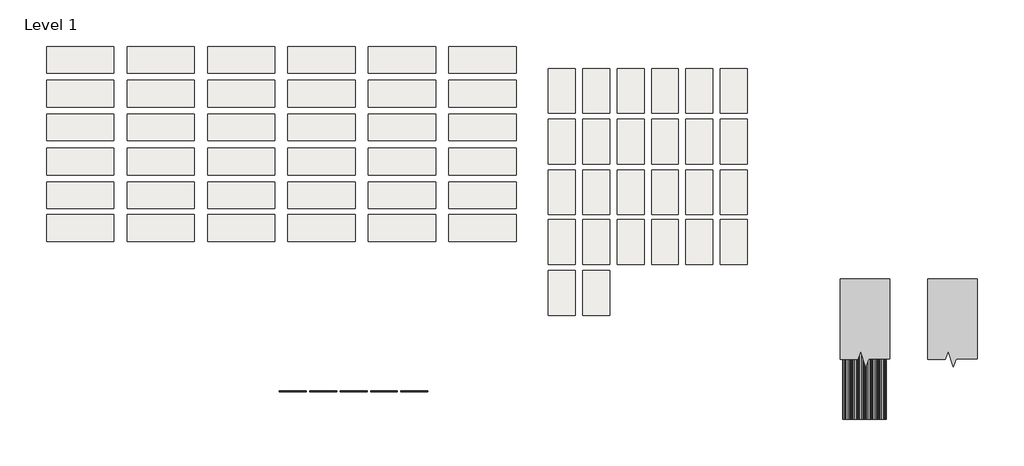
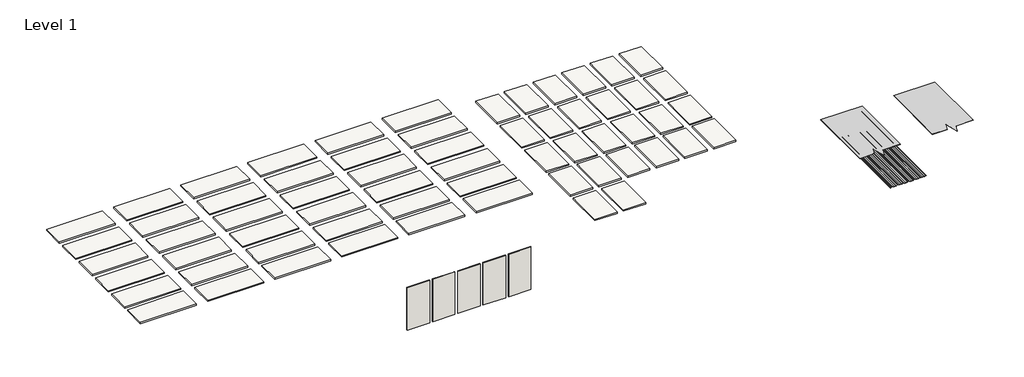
# One storey: 62 slabs, 5 walls, 3 proxies.
"""IFC4 building model written with IfcOpenShell, lengths in millimetres."""

from ifc_helpers import new_model, si_unit, frame, origin, origin_with_axes, place, context, project, spatial, polyline, outline, extrude, transform, mapped, element, save
from components import proxy_794bf6ff, section_mask1_section_mask_d04c1bcf

model = new_model("IFC4")

# Units and contexts
model_context = context("Model", 3, world=origin())
ifc_project = project(units=[si_unit("LENGTHUNIT", "METRE", prefix="MILLI")], contexts=[model_context])

# Site, building, storey
site = spatial("IfcSite", under=ifc_project)
building = spatial("IfcBuilding", under=site)
storey = spatial("IfcBuildingStorey", under=building, Name="Level 1", Elevation=0.0)

# Proxies
placement = place(None, origin())
proxy_shape = proxy_794bf6ff(model_context)
element("IfcBuildingElementProxy", 1, Name="Metal_Siding_Exposed-Fastener-Panel_Steelscape : 36\" Exposed Fastener Panel", ObjectType="Metal_Siding_Exposed-Fastener-Panel_Steelscape : 36\" Exposed Fastener Panel", at=placement, inside=storey, context=model_context, shape_type="MappedRepresentation", body=[
    mapped(proxy_shape, transform((8066.2424454, 2573.2522943, 0.0), x_axis=(1.0, 0.0, 0.0), y_axis=(0.0, 1.0, 0.0), z_axis=(0.0, 0.0, 1.0))),
])
section_mask1_section_mask_shape = section_mask1_section_mask_d04c1bcf(model_context)
element("IfcBuildingElementProxy", 2, Name="Section Mask1 : Section Mask", ObjectType="Section Mask1 : Section Mask", at=placement, inside=storey, context=model_context, shape_type="MappedRepresentation", body=[
    mapped(section_mask1_section_mask_shape, transform((1955.8, 0.0, 0.0), x_axis=(1.0, 0.0, 0.0), y_axis=(0.0, 1.0, 0.0), z_axis=(0.0, 0.0, 1.0))),
])
element("IfcBuildingElementProxy", 3, Name="Section Mask2 : Section Mask", ObjectType="Section Mask2 : Section Mask", at=placement, inside=storey, context=model_context, shape_type="MappedRepresentation", body=[
    mapped(section_mask1_section_mask_shape, transform((-31.75, 0.0, 0.0), x_axis=(1.0, 0.0, 0.0), y_axis=(0.0, 1.0, 0.0), z_axis=(0.0, 0.0, 1.0))),
])

# Slabs
element("IfcSlab", 4, ObjectType="Metal Siding - PAINTED - Steelscape", at=placement, inside=storey, context=model_context, shape_type="SweptSolid", body=[
    extrude(outline(polyline([(-9006.1610252, 7398.0362798), (-10530.1610252, 7398.0362798), (-10530.1610252, 8007.6362798), (-9006.1610252, 8007.6362798), (-9006.1610252, 7398.0362798)])), frame((0.0, 0.0, -38.1), z_axis=(0.0, 0.0, 1.0), x_axis=(1.0, 0.0, 0.0)), (0.0, 0.0, 1.0), 38.1),
])
element("IfcSlab", 5, ObjectType="Metal Siding - PAINTED - Steelscape", at=placement, inside=storey, context=model_context, shape_type="SweptSolid", body=[
    extrude(outline(polyline([(-9006.1610252, 6629.6862798), (-10530.1610252, 6629.6862798), (-10530.1610252, 7239.2862798), (-9006.1610252, 7239.2862798), (-9006.1610252, 6629.6862798)])), frame((0.0, 0.0, -38.1), z_axis=(0.0, 0.0, 1.0), x_axis=(1.0, 0.0, 0.0)), (0.0, 0.0, 1.0), 38.1),
])
element("IfcSlab", 6, ObjectType="Metal Siding - PAINTED - Steelscape", at=placement, inside=storey, context=model_context, shape_type="SweptSolid", body=[
    extrude(outline(polyline([(-9006.1610252, 5861.3362798), (-10530.1610252, 5861.3362798), (-10530.1610252, 6470.9362798), (-9006.1610252, 6470.9362798), (-9006.1610252, 5861.3362798)])), frame((0.0, 0.0, -38.1), z_axis=(0.0, 0.0, 1.0), x_axis=(1.0, 0.0, 0.0)), (0.0, 0.0, 1.0), 38.1),
])
element("IfcSlab", 7, ObjectType="Metal Siding - PAINTED - Steelscape", at=placement, inside=storey, context=model_context, shape_type="SweptSolid", body=[
    extrude(outline(polyline([(-9006.1610252, 5086.6362798), (-10530.1610252, 5086.6362798), (-10530.1610252, 5696.2362798), (-9006.1610252, 5696.2362798), (-9006.1610252, 5086.6362798)])), frame((0.0, 0.0, -38.1), z_axis=(0.0, 0.0, 1.0), x_axis=(1.0, 0.0, 0.0)), (0.0, 0.0, 1.0), 38.1),
])
element("IfcSlab", 8, ObjectType="Metal Siding - PAINTED - Steelscape", at=placement, inside=storey, context=model_context, shape_type="SweptSolid", body=[
    extrude(outline(polyline([(-9006.1610252, 4318.2862798), (-10530.1610252, 4318.2862798), (-10530.1610252, 4927.8862798), (-9006.1610252, 4927.8862798), (-9006.1610252, 4318.2862798)])), frame((0.0, 0.0, -38.1), z_axis=(0.0, 0.0, 1.0), x_axis=(1.0, 0.0, 0.0)), (0.0, 0.0, 1.0), 38.1),
])
element("IfcSlab", 9, ObjectType="Metal Siding - PAINTED - Steelscape", at=placement, inside=storey, context=model_context, shape_type="SweptSolid", body=[
    extrude(outline(polyline([(-9006.1610252, 3575.3362798), (-10530.1610252, 3575.3362798), (-10530.1610252, 4184.9362798), (-9006.1610252, 4184.9362798), (-9006.1610252, 3575.3362798)])), frame((0.0, 0.0, -38.1), z_axis=(0.0, 0.0, 1.0), x_axis=(1.0, 0.0, 0.0)), (0.0, 0.0, 1.0), 38.1),
])
element("IfcSlab", 10, ObjectType="Metal Siding - PAINTED - Steelscape", at=placement, inside=storey, context=model_context, shape_type="SweptSolid", body=[
    extrude(outline(polyline([(-7177.3610252, 7398.0362798), (-8701.3610252, 7398.0362798), (-8701.3610252, 8007.6362798), (-7177.3610252, 8007.6362798), (-7177.3610252, 7398.0362798)])), frame((0.0, 0.0, -38.1), z_axis=(0.0, 0.0, 1.0), x_axis=(1.0, 0.0, 0.0)), (0.0, 0.0, 1.0), 38.1),
])
element("IfcSlab", 11, ObjectType="Metal Siding - PAINTED - Steelscape", at=placement, inside=storey, context=model_context, shape_type="SweptSolid", body=[
    extrude(outline(polyline([(-7177.3610252, 6629.6862798), (-8701.3610252, 6629.6862798), (-8701.3610252, 7239.2862798), (-7177.3610252, 7239.2862798), (-7177.3610252, 6629.6862798)])), frame((0.0, 0.0, -38.1), z_axis=(0.0, 0.0, 1.0), x_axis=(1.0, 0.0, 0.0)), (0.0, 0.0, 1.0), 38.1),
])
element("IfcSlab", 12, ObjectType="Metal Siding - PAINTED - Steelscape", at=placement, inside=storey, context=model_context, shape_type="SweptSolid", body=[
    extrude(outline(polyline([(-7177.3610252, 5861.3362798), (-8701.3610252, 5861.3362798), (-8701.3610252, 6470.9362798), (-7177.3610252, 6470.9362798), (-7177.3610252, 5861.3362798)])), frame((0.0, 0.0, -38.1), z_axis=(0.0, 0.0, 1.0), x_axis=(1.0, 0.0, 0.0)), (0.0, 0.0, 1.0), 38.1),
])
element("IfcSlab", 13, ObjectType="Metal Siding - PAINTED - Steelscape", at=placement, inside=storey, context=model_context, shape_type="SweptSolid", body=[
    extrude(outline(polyline([(-7177.3610252, 5086.6362798), (-8701.3610252, 5086.6362798), (-8701.3610252, 5696.2362798), (-7177.3610252, 5696.2362798), (-7177.3610252, 5086.6362798)])), frame((0.0, 0.0, -38.1), z_axis=(0.0, 0.0, 1.0), x_axis=(1.0, 0.0, 0.0)), (0.0, 0.0, 1.0), 38.1),
])
element("IfcSlab", 14, ObjectType="Metal Siding - PAINTED - Steelscape", at=placement, inside=storey, context=model_context, shape_type="SweptSolid", body=[
    extrude(outline(polyline([(-7177.3610252, 4318.2862798), (-8701.3610252, 4318.2862798), (-8701.3610252, 4927.8862798), (-7177.3610252, 4927.8862798), (-7177.3610252, 4318.2862798)])), frame((0.0, 0.0, -38.1), z_axis=(0.0, 0.0, 1.0), x_axis=(1.0, 0.0, 0.0)), (0.0, 0.0, 1.0), 38.1),
])
element("IfcSlab", 15, ObjectType="Metal Siding - PAINTED - Steelscape", at=placement, inside=storey, context=model_context, shape_type="SweptSolid", body=[
    extrude(outline(polyline([(-7177.3610252, 3575.3362798), (-8701.3610252, 3575.3362798), (-8701.3610252, 4184.9362798), (-7177.3610252, 4184.9362798), (-7177.3610252, 3575.3362798)])), frame((0.0, 0.0, -38.1), z_axis=(0.0, 0.0, 1.0), x_axis=(1.0, 0.0, 0.0)), (0.0, 0.0, 1.0), 38.1),
])
element("IfcSlab", 16, ObjectType="Metal Siding - PAINTED - Steelscape", at=placement, inside=storey, context=model_context, shape_type="SweptSolid", body=[
    extrude(outline(polyline([(-5348.5610252, 7398.0362798), (-6872.5610252, 7398.0362798), (-6872.5610252, 8007.6362798), (-5348.5610252, 8007.6362798), (-5348.5610252, 7398.0362798)])), frame((0.0, 0.0, -38.1), z_axis=(0.0, 0.0, 1.0), x_axis=(1.0, 0.0, 0.0)), (0.0, 0.0, 1.0), 38.1),
])
element("IfcSlab", 17, ObjectType="Metal Siding - PAINTED - Steelscape", at=placement, inside=storey, context=model_context, shape_type="SweptSolid", body=[
    extrude(outline(polyline([(-5348.5610252, 6629.6862798), (-6872.5610252, 6629.6862798), (-6872.5610252, 7239.2862798), (-5348.5610252, 7239.2862798), (-5348.5610252, 6629.6862798)])), frame((0.0, 0.0, -38.1), z_axis=(0.0, 0.0, 1.0), x_axis=(1.0, 0.0, 0.0)), (0.0, 0.0, 1.0), 38.1),
])
element("IfcSlab", 18, ObjectType="Metal Siding - PAINTED - Steelscape", at=placement, inside=storey, context=model_context, shape_type="SweptSolid", body=[
    extrude(outline(polyline([(-5348.5610252, 5861.3362798), (-6872.5610252, 5861.3362798), (-6872.5610252, 6470.9362798), (-5348.5610252, 6470.9362798), (-5348.5610252, 5861.3362798)])), frame((0.0, 0.0, -38.1), z_axis=(0.0, 0.0, 1.0), x_axis=(1.0, 0.0, 0.0)), (0.0, 0.0, 1.0), 38.1),
])
element("IfcSlab", 19, ObjectType="Metal Siding - PAINTED - Steelscape", at=placement, inside=storey, context=model_context, shape_type="SweptSolid", body=[
    extrude(outline(polyline([(-5348.5610252, 5086.6362798), (-6872.5610252, 5086.6362798), (-6872.5610252, 5696.2362798), (-5348.5610252, 5696.2362798), (-5348.5610252, 5086.6362798)])), frame((0.0, 0.0, -38.1), z_axis=(0.0, 0.0, 1.0), x_axis=(1.0, 0.0, 0.0)), (0.0, 0.0, 1.0), 38.1),
])
element("IfcSlab", 20, ObjectType="Metal Siding - PAINTED - Steelscape", at=placement, inside=storey, context=model_context, shape_type="SweptSolid", body=[
    extrude(outline(polyline([(-5348.5610252, 4318.2862798), (-6872.5610252, 4318.2862798), (-6872.5610252, 4927.8862798), (-5348.5610252, 4927.8862798), (-5348.5610252, 4318.2862798)])), frame((0.0, 0.0, -38.1), z_axis=(0.0, 0.0, 1.0), x_axis=(1.0, 0.0, 0.0)), (0.0, 0.0, 1.0), 38.1),
])
element("IfcSlab", 21, ObjectType="Metal Siding - PAINTED - Steelscape", at=placement, inside=storey, context=model_context, shape_type="SweptSolid", body=[
    extrude(outline(polyline([(-5348.5610252, 3575.3362798), (-6872.5610252, 3575.3362798), (-6872.5610252, 4184.9362798), (-5348.5610252, 4184.9362798), (-5348.5610252, 3575.3362798)])), frame((0.0, 0.0, -38.1), z_axis=(0.0, 0.0, 1.0), x_axis=(1.0, 0.0, 0.0)), (0.0, 0.0, 1.0), 38.1),
])
element("IfcSlab", 22, ObjectType="Metal Siding - PAINTED - Steelscape", at=placement, inside=storey, context=model_context, shape_type="SweptSolid", body=[
    extrude(outline(polyline([(-3519.7610252, 7398.0362798), (-5043.7610252, 7398.0362798), (-5043.7610252, 8007.6362798), (-3519.7610252, 8007.6362798), (-3519.7610252, 7398.0362798)])), frame((0.0, 0.0, -38.1), z_axis=(0.0, 0.0, 1.0), x_axis=(1.0, 0.0, 0.0)), (0.0, 0.0, 1.0), 38.1),
])
element("IfcSlab", 23, ObjectType="Metal Siding - PAINTED - Steelscape", at=placement, inside=storey, context=model_context, shape_type="SweptSolid", body=[
    extrude(outline(polyline([(-3519.7610252, 6629.6862798), (-5043.7610252, 6629.6862798), (-5043.7610252, 7239.2862798), (-3519.7610252, 7239.2862798), (-3519.7610252, 6629.6862798)])), frame((0.0, 0.0, -38.1), z_axis=(0.0, 0.0, 1.0), x_axis=(1.0, 0.0, 0.0)), (0.0, 0.0, 1.0), 38.1),
])
element("IfcSlab", 24, ObjectType="Metal Siding - PAINTED - Steelscape", at=placement, inside=storey, context=model_context, shape_type="SweptSolid", body=[
    extrude(outline(polyline([(-3519.7610252, 5861.3362798), (-5043.7610252, 5861.3362798), (-5043.7610252, 6470.9362798), (-3519.7610252, 6470.9362798), (-3519.7610252, 5861.3362798)])), frame((0.0, 0.0, -38.1), z_axis=(0.0, 0.0, 1.0), x_axis=(1.0, 0.0, 0.0)), (0.0, 0.0, 1.0), 38.1),
])
element("IfcSlab", 25, ObjectType="Metal Siding - PAINTED - Steelscape", at=placement, inside=storey, context=model_context, shape_type="SweptSolid", body=[
    extrude(outline(polyline([(-3519.7610252, 5086.6362798), (-5043.7610252, 5086.6362798), (-5043.7610252, 5696.2362798), (-3519.7610252, 5696.2362798), (-3519.7610252, 5086.6362798)])), frame((0.0, 0.0, -38.1), z_axis=(0.0, 0.0, 1.0), x_axis=(1.0, 0.0, 0.0)), (0.0, 0.0, 1.0), 38.1),
])
element("IfcSlab", 26, ObjectType="Metal Siding - PAINTED - Steelscape", at=placement, inside=storey, context=model_context, shape_type="SweptSolid", body=[
    extrude(outline(polyline([(-3519.7610252, 4318.2862798), (-5043.7610252, 4318.2862798), (-5043.7610252, 4927.8862798), (-3519.7610252, 4927.8862798), (-3519.7610252, 4318.2862798)])), frame((0.0, 0.0, -38.1), z_axis=(0.0, 0.0, 1.0), x_axis=(1.0, 0.0, 0.0)), (0.0, 0.0, 1.0), 38.1),
])
element("IfcSlab", 27, ObjectType="Metal Siding - PAINTED - Steelscape", at=placement, inside=storey, context=model_context, shape_type="SweptSolid", body=[
    extrude(outline(polyline([(-3519.7610252, 3575.3362798), (-5043.7610252, 3575.3362798), (-5043.7610252, 4184.9362798), (-3519.7610252, 4184.9362798), (-3519.7610252, 3575.3362798)])), frame((0.0, 0.0, -38.1), z_axis=(0.0, 0.0, 1.0), x_axis=(1.0, 0.0, 0.0)), (0.0, 0.0, 1.0), 38.1),
])
element("IfcSlab", 28, ObjectType="Metal Siding - PAINTED - Steelscape", at=placement, inside=storey, context=model_context, shape_type="SweptSolid", body=[
    extrude(outline(polyline([(-1690.9610252, 7398.0362798), (-3214.9610252, 7398.0362798), (-3214.9610252, 8007.6362798), (-1690.9610252, 8007.6362798), (-1690.9610252, 7398.0362798)])), frame((0.0, 0.0, -38.1), z_axis=(0.0, 0.0, 1.0), x_axis=(1.0, 0.0, 0.0)), (0.0, 0.0, 1.0), 38.1),
])
element("IfcSlab", 29, ObjectType="Metal Siding - PAINTED - Steelscape", at=placement, inside=storey, context=model_context, shape_type="SweptSolid", body=[
    extrude(outline(polyline([(-1690.9610252, 6629.6862798), (-3214.9610252, 6629.6862798), (-3214.9610252, 7239.2862798), (-1690.9610252, 7239.2862798), (-1690.9610252, 6629.6862798)])), frame((0.0, 0.0, -38.1), z_axis=(0.0, 0.0, 1.0), x_axis=(1.0, 0.0, 0.0)), (0.0, 0.0, 1.0), 38.1),
])
element("IfcSlab", 30, ObjectType="Metal Siding - PAINTED - Steelscape", at=placement, inside=storey, context=model_context, shape_type="SweptSolid", body=[
    extrude(outline(polyline([(-1690.9610252, 5861.3362798), (-3214.9610252, 5861.3362798), (-3214.9610252, 6470.9362798), (-1690.9610252, 6470.9362798), (-1690.9610252, 5861.3362798)])), frame((0.0, 0.0, -38.1), z_axis=(0.0, 0.0, 1.0), x_axis=(1.0, 0.0, 0.0)), (0.0, 0.0, 1.0), 38.1),
])
element("IfcSlab", 31, ObjectType="Metal Siding - PAINTED - Steelscape", at=placement, inside=storey, context=model_context, shape_type="SweptSolid", body=[
    extrude(outline(polyline([(-1690.9610252, 5086.6362798), (-3214.9610252, 5086.6362798), (-3214.9610252, 5696.2362798), (-1690.9610252, 5696.2362798), (-1690.9610252, 5086.6362798)])), frame((0.0, 0.0, -38.1), z_axis=(0.0, 0.0, 1.0), x_axis=(1.0, 0.0, 0.0)), (0.0, 0.0, 1.0), 38.1),
])
element("IfcSlab", 32, ObjectType="Metal Siding - PAINTED - Steelscape", at=placement, inside=storey, context=model_context, shape_type="SweptSolid", body=[
    extrude(outline(polyline([(-1690.9610252, 4318.2862798), (-3214.9610252, 4318.2862798), (-3214.9610252, 4927.8862798), (-1690.9610252, 4927.8862798), (-1690.9610252, 4318.2862798)])), frame((0.0, 0.0, -38.1), z_axis=(0.0, 0.0, 1.0), x_axis=(1.0, 0.0, 0.0)), (0.0, 0.0, 1.0), 38.1),
])
element("IfcSlab", 33, ObjectType="Metal Siding - PAINTED - Steelscape", at=placement, inside=storey, context=model_context, shape_type="SweptSolid", body=[
    extrude(outline(polyline([(-1690.9610252, 3575.3362798), (-3214.9610252, 3575.3362798), (-3214.9610252, 4184.9362798), (-1690.9610252, 4184.9362798), (-1690.9610252, 3575.3362798)])), frame((0.0, 0.0, -38.1), z_axis=(0.0, 0.0, 1.0), x_axis=(1.0, 0.0, 0.0)), (0.0, 0.0, 1.0), 38.1),
])
element("IfcSlab", 34, ObjectType="Metal Siding - PAINTED - Steelscape", at=placement, inside=storey, context=model_context, shape_type="SweptSolid", body=[
    extrude(outline(polyline([(137.8389748, 7398.0362798), (-1386.1610252, 7398.0362798), (-1386.1610252, 8007.6362798), (137.8389748, 8007.6362798), (137.8389748, 7398.0362798)])), frame((0.0, 0.0, -38.1), z_axis=(0.0, 0.0, 1.0), x_axis=(1.0, 0.0, 0.0)), (0.0, 0.0, 1.0), 38.1),
])
element("IfcSlab", 35, ObjectType="Metal Siding - PAINTED - Steelscape", at=placement, inside=storey, context=model_context, shape_type="SweptSolid", body=[
    extrude(outline(polyline([(137.8389748, 6629.6862798), (-1386.1610252, 6629.6862798), (-1386.1610252, 7239.2862798), (137.8389748, 7239.2862798), (137.8389748, 6629.6862798)])), frame((0.0, 0.0, -38.1), z_axis=(0.0, 0.0, 1.0), x_axis=(1.0, 0.0, 0.0)), (0.0, 0.0, 1.0), 38.1),
])
element("IfcSlab", 36, ObjectType="Metal Siding - PAINTED - Steelscape", at=placement, inside=storey, context=model_context, shape_type="SweptSolid", body=[
    extrude(outline(polyline([(137.8389748, 5861.3362798), (-1386.1610252, 5861.3362798), (-1386.1610252, 6470.9362798), (137.8389748, 6470.9362798), (137.8389748, 5861.3362798)])), frame((0.0, 0.0, -38.1), z_axis=(0.0, 0.0, 1.0), x_axis=(1.0, 0.0, 0.0)), (0.0, 0.0, 1.0), 38.1),
])
element("IfcSlab", 37, ObjectType="Metal Siding - PAINTED - Steelscape", at=placement, inside=storey, context=model_context, shape_type="SweptSolid", body=[
    extrude(outline(polyline([(137.8389748, 5086.6362798), (-1386.1610252, 5086.6362798), (-1386.1610252, 5696.2362798), (137.8389748, 5696.2362798), (137.8389748, 5086.6362798)])), frame((0.0, 0.0, -38.1), z_axis=(0.0, 0.0, 1.0), x_axis=(1.0, 0.0, 0.0)), (0.0, 0.0, 1.0), 38.1),
])
element("IfcSlab", 38, ObjectType="Metal Siding - PAINTED - Steelscape", at=placement, inside=storey, context=model_context, shape_type="SweptSolid", body=[
    extrude(outline(polyline([(137.8389748, 4318.2862798), (-1386.1610252, 4318.2862798), (-1386.1610252, 4927.8862798), (137.8389748, 4927.8862798), (137.8389748, 4318.2862798)])), frame((0.0, 0.0, -38.1), z_axis=(0.0, 0.0, 1.0), x_axis=(1.0, 0.0, 0.0)), (0.0, 0.0, 1.0), 38.1),
])
element("IfcSlab", 39, ObjectType="Metal Siding - PAINTED - Steelscape", at=placement, inside=storey, context=model_context, shape_type="SweptSolid", body=[
    extrude(outline(polyline([(137.8389748, 3575.3362798), (-1386.1610252, 3575.3362798), (-1386.1610252, 4184.9362798), (137.8389748, 4184.9362798), (137.8389748, 3575.3362798)])), frame((0.0, 0.0, -38.1), z_axis=(0.0, 0.0, 1.0), x_axis=(1.0, 0.0, 0.0)), (0.0, 0.0, 1.0), 38.1),
])
element("IfcSlab", 40, ObjectType="AEP Span Material Sample", at=placement, inside=storey, context=model_context, shape_type="SweptSolid", body=[
    extrude(outline(polyline([(1485.5495194, 6492.0895229), (875.9495194, 6492.0895229), (875.9495194, 7508.0895229), (1485.5495194, 7508.0895229), (1485.5495194, 6492.0895229)])), frame((0.0, 0.0, -38.1), z_axis=(0.0, 0.0, 1.0), x_axis=(1.0, 0.0, 0.0)), (0.0, 0.0, 1.0), 38.1),
])
element("IfcSlab", 41, ObjectType="AEP Span Material Sample", at=placement, inside=storey, context=model_context, shape_type="SweptSolid", body=[
    extrude(outline(polyline([(2266.5995194, 6492.0895229), (1656.9995194, 6492.0895229), (1656.9995194, 7508.0895229), (2266.5995194, 7508.0895229), (2266.5995194, 6492.0895229)])), frame((0.0, 0.0, -38.1), z_axis=(0.0, 0.0, 1.0), x_axis=(1.0, 0.0, 0.0)), (0.0, 0.0, 1.0), 38.1),
])
element("IfcSlab", 42, ObjectType="AEP Span Material Sample", at=placement, inside=storey, context=model_context, shape_type="SweptSolid", body=[
    extrude(outline(polyline([(3047.6495194, 6492.0895229), (2438.0495194, 6492.0895229), (2438.0495194, 7508.0895229), (3047.6495194, 7508.0895229), (3047.6495194, 6492.0895229)])), frame((0.0, 0.0, -38.1), z_axis=(0.0, 0.0, 1.0), x_axis=(1.0, 0.0, 0.0)), (0.0, 0.0, 1.0), 38.1),
])
element("IfcSlab", 43, ObjectType="AEP Span Material Sample", at=placement, inside=storey, context=model_context, shape_type="SweptSolid", body=[
    extrude(outline(polyline([(3828.6995194, 6492.0895229), (3219.0995194, 6492.0895229), (3219.0995194, 7508.0895229), (3828.6995194, 7508.0895229), (3828.6995194, 6492.0895229)])), frame((0.0, 0.0, -38.1), z_axis=(0.0, 0.0, 1.0), x_axis=(1.0, 0.0, 0.0)), (0.0, 0.0, 1.0), 38.1),
])
element("IfcSlab", 44, ObjectType="AEP Span Material Sample", at=placement, inside=storey, context=model_context, shape_type="SweptSolid", body=[
    extrude(outline(polyline([(4609.7495194, 6492.0895229), (4000.1495194, 6492.0895229), (4000.1495194, 7508.0895229), (4609.7495194, 7508.0895229), (4609.7495194, 6492.0895229)])), frame((0.0, 0.0, -38.1), z_axis=(0.0, 0.0, 1.0), x_axis=(1.0, 0.0, 0.0)), (0.0, 0.0, 1.0), 38.1),
])
element("IfcSlab", 45, ObjectType="AEP Span Material Sample", at=placement, inside=storey, context=model_context, shape_type="SweptSolid", body=[
    extrude(outline(polyline([(5390.7995194, 6492.0895229), (4781.1995194, 6492.0895229), (4781.1995194, 7508.0895229), (5390.7995194, 7508.0895229), (5390.7995194, 6492.0895229)])), frame((0.0, 0.0, -38.1), z_axis=(0.0, 0.0, 1.0), x_axis=(1.0, 0.0, 0.0)), (0.0, 0.0, 1.0), 38.1),
])
element("IfcSlab", 46, ObjectType="AEP Span Material Sample", at=placement, inside=storey, context=model_context, shape_type="SweptSolid", body=[
    extrude(outline(polyline([(1485.5495194, 5336.3895229), (875.9495194, 5336.3895229), (875.9495194, 6352.3895229), (1485.5495194, 6352.3895229), (1485.5495194, 5336.3895229)])), frame((0.0, 0.0, -38.1), z_axis=(0.0, 0.0, 1.0), x_axis=(1.0, 0.0, 0.0)), (0.0, 0.0, 1.0), 38.1),
])
element("IfcSlab", 47, ObjectType="AEP Span Material Sample", at=placement, inside=storey, context=model_context, shape_type="SweptSolid", body=[
    extrude(outline(polyline([(2266.5995194, 5336.3895229), (1656.9995194, 5336.3895229), (1656.9995194, 6352.3895229), (2266.5995194, 6352.3895229), (2266.5995194, 5336.3895229)])), frame((0.0, 0.0, -38.1), z_axis=(0.0, 0.0, 1.0), x_axis=(1.0, 0.0, 0.0)), (0.0, 0.0, 1.0), 38.1),
])
element("IfcSlab", 48, ObjectType="AEP Span Material Sample", at=placement, inside=storey, context=model_context, shape_type="SweptSolid", body=[
    extrude(outline(polyline([(3047.6495194, 5336.3895229), (2438.0495194, 5336.3895229), (2438.0495194, 6352.3895229), (3047.6495194, 6352.3895229), (3047.6495194, 5336.3895229)])), frame((0.0, 0.0, -38.1), z_axis=(0.0, 0.0, 1.0), x_axis=(1.0, 0.0, 0.0)), (0.0, 0.0, 1.0), 38.1),
])
element("IfcSlab", 49, ObjectType="AEP Span Material Sample", at=placement, inside=storey, context=model_context, shape_type="SweptSolid", body=[
    extrude(outline(polyline([(3828.6995194, 5336.3895229), (3219.0995194, 5336.3895229), (3219.0995194, 6352.3895229), (3828.6995194, 6352.3895229), (3828.6995194, 5336.3895229)])), frame((0.0, 0.0, -38.1), z_axis=(0.0, 0.0, 1.0), x_axis=(1.0, 0.0, 0.0)), (0.0, 0.0, 1.0), 38.1),
])
element("IfcSlab", 50, ObjectType="AEP Span Material Sample", at=placement, inside=storey, context=model_context, shape_type="SweptSolid", body=[
    extrude(outline(polyline([(4609.7495194, 5336.3895229), (4000.1495194, 5336.3895229), (4000.1495194, 6352.3895229), (4609.7495194, 6352.3895229), (4609.7495194, 5336.3895229)])), frame((0.0, 0.0, -38.1), z_axis=(0.0, 0.0, 1.0), x_axis=(1.0, 0.0, 0.0)), (0.0, 0.0, 1.0), 38.1),
])
element("IfcSlab", 51, ObjectType="AEP Span Material Sample", at=placement, inside=storey, context=model_context, shape_type="SweptSolid", body=[
    extrude(outline(polyline([(5390.7995194, 5336.3895229), (4781.1995194, 5336.3895229), (4781.1995194, 6352.3895229), (5390.7995194, 6352.3895229), (5390.7995194, 5336.3895229)])), frame((0.0, 0.0, -38.1), z_axis=(0.0, 0.0, 1.0), x_axis=(1.0, 0.0, 0.0)), (0.0, 0.0, 1.0), 38.1),
])
element("IfcSlab", 52, ObjectType="AEP Span Material Sample", at=placement, inside=storey, context=model_context, shape_type="SweptSolid", body=[
    extrude(outline(polyline([(1485.5495194, 4180.6895229), (875.9495194, 4180.6895229), (875.9495194, 5196.6895229), (1485.5495194, 5196.6895229), (1485.5495194, 4180.6895229)])), frame((0.0, 0.0, -38.1), z_axis=(0.0, 0.0, 1.0), x_axis=(1.0, 0.0, 0.0)), (0.0, 0.0, 1.0), 38.1),
])
element("IfcSlab", 53, ObjectType="AEP Span Material Sample", at=placement, inside=storey, context=model_context, shape_type="SweptSolid", body=[
    extrude(outline(polyline([(2266.5995194, 4180.6895229), (1656.9995194, 4180.6895229), (1656.9995194, 5196.6895229), (2266.5995194, 5196.6895229), (2266.5995194, 4180.6895229)])), frame((0.0, 0.0, -38.1), z_axis=(0.0, 0.0, 1.0), x_axis=(1.0, 0.0, 0.0)), (0.0, 0.0, 1.0), 38.1),
])
element("IfcSlab", 54, ObjectType="AEP Span Material Sample", at=placement, inside=storey, context=model_context, shape_type="SweptSolid", body=[
    extrude(outline(polyline([(3047.6495194, 4180.6895229), (2438.0495194, 4180.6895229), (2438.0495194, 5196.6895229), (3047.6495194, 5196.6895229), (3047.6495194, 4180.6895229)])), frame((0.0, 0.0, -38.1), z_axis=(0.0, 0.0, 1.0), x_axis=(1.0, 0.0, 0.0)), (0.0, 0.0, 1.0), 38.1),
])
element("IfcSlab", 55, ObjectType="AEP Span Material Sample", at=placement, inside=storey, context=model_context, shape_type="SweptSolid", body=[
    extrude(outline(polyline([(3828.6995194, 4180.6895229), (3219.0995194, 4180.6895229), (3219.0995194, 5196.6895229), (3828.6995194, 5196.6895229), (3828.6995194, 4180.6895229)])), frame((0.0, 0.0, -38.1), z_axis=(0.0, 0.0, 1.0), x_axis=(1.0, 0.0, 0.0)), (0.0, 0.0, 1.0), 38.1),
])
element("IfcSlab", 56, ObjectType="AEP Span Material Sample", at=placement, inside=storey, context=model_context, shape_type="SweptSolid", body=[
    extrude(outline(polyline([(4609.7495194, 4180.6895229), (4000.1495194, 4180.6895229), (4000.1495194, 5196.6895229), (4609.7495194, 5196.6895229), (4609.7495194, 4180.6895229)])), frame((0.0, 0.0, -38.1), z_axis=(0.0, 0.0, 1.0), x_axis=(1.0, 0.0, 0.0)), (0.0, 0.0, 1.0), 38.1),
])
element("IfcSlab", 57, ObjectType="AEP Span Material Sample", at=placement, inside=storey, context=model_context, shape_type="SweptSolid", body=[
    extrude(outline(polyline([(5390.7995194, 4180.6895229), (4781.1995194, 4180.6895229), (4781.1995194, 5196.6895229), (5390.7995194, 5196.6895229), (5390.7995194, 4180.6895229)])), frame((0.0, 0.0, -38.1), z_axis=(0.0, 0.0, 1.0), x_axis=(1.0, 0.0, 0.0)), (0.0, 0.0, 1.0), 38.1),
])
element("IfcSlab", 58, ObjectType="AEP Span Material Sample", at=placement, inside=storey, context=model_context, shape_type="SweptSolid", body=[
    extrude(outline(polyline([(1485.5495194, 3050.3895229), (875.9495194, 3050.3895229), (875.9495194, 4066.3895229), (1485.5495194, 4066.3895229), (1485.5495194, 3050.3895229)])), frame((0.0, 0.0, -38.1), z_axis=(0.0, 0.0, 1.0), x_axis=(1.0, 0.0, 0.0)), (0.0, 0.0, 1.0), 38.1),
])
element("IfcSlab", 59, ObjectType="AEP Span Material Sample", at=placement, inside=storey, context=model_context, shape_type="SweptSolid", body=[
    extrude(outline(polyline([(2266.5995194, 3050.3895229), (1656.9995194, 3050.3895229), (1656.9995194, 4066.3895229), (2266.5995194, 4066.3895229), (2266.5995194, 3050.3895229)])), frame((0.0, 0.0, -38.1), z_axis=(0.0, 0.0, 1.0), x_axis=(1.0, 0.0, 0.0)), (0.0, 0.0, 1.0), 38.1),
])
element("IfcSlab", 60, ObjectType="AEP Span Material Sample", at=placement, inside=storey, context=model_context, shape_type="SweptSolid", body=[
    extrude(outline(polyline([(3047.6495194, 3050.3895229), (2438.0495194, 3050.3895229), (2438.0495194, 4066.3895229), (3047.6495194, 4066.3895229), (3047.6495194, 3050.3895229)])), frame((0.0, 0.0, -38.1), z_axis=(0.0, 0.0, 1.0), x_axis=(1.0, 0.0, 0.0)), (0.0, 0.0, 1.0), 38.1),
])
element("IfcSlab", 61, ObjectType="AEP Span Material Sample", at=placement, inside=storey, context=model_context, shape_type="SweptSolid", body=[
    extrude(outline(polyline([(3828.6995194, 3050.3895229), (3219.0995194, 3050.3895229), (3219.0995194, 4066.3895229), (3828.6995194, 4066.3895229), (3828.6995194, 3050.3895229)])), frame((0.0, 0.0, -38.1), z_axis=(0.0, 0.0, 1.0), x_axis=(1.0, 0.0, 0.0)), (0.0, 0.0, 1.0), 38.1),
])
element("IfcSlab", 62, ObjectType="AEP Span Material Sample", at=placement, inside=storey, context=model_context, shape_type="SweptSolid", body=[
    extrude(outline(polyline([(4609.7495194, 3050.3895229), (4000.1495194, 3050.3895229), (4000.1495194, 4066.3895229), (4609.7495194, 4066.3895229), (4609.7495194, 3050.3895229)])), frame((0.0, 0.0, -38.1), z_axis=(0.0, 0.0, 1.0), x_axis=(1.0, 0.0, 0.0)), (0.0, 0.0, 1.0), 38.1),
])
element("IfcSlab", 63, ObjectType="AEP Span Material Sample", at=placement, inside=storey, context=model_context, shape_type="SweptSolid", body=[
    extrude(outline(polyline([(5390.7995194, 3050.3895229), (4781.1995194, 3050.3895229), (4781.1995194, 4066.3895229), (5390.7995194, 4066.3895229), (5390.7995194, 3050.3895229)])), frame((0.0, 0.0, -38.1), z_axis=(0.0, 0.0, 1.0), x_axis=(1.0, 0.0, 0.0)), (0.0, 0.0, 1.0), 38.1),
])
element("IfcSlab", 64, ObjectType="AEP Span Material Sample", at=placement, inside=storey, context=model_context, shape_type="SweptSolid", body=[
    extrude(outline(polyline([(1485.5495194, 1894.6895229), (875.9495194, 1894.6895229), (875.9495194, 2910.6895229), (1485.5495194, 2910.6895229), (1485.5495194, 1894.6895229)])), frame((0.0, 0.0, -38.1), z_axis=(0.0, 0.0, 1.0), x_axis=(1.0, 0.0, 0.0)), (0.0, 0.0, 1.0), 38.1),
])
element("IfcSlab", 65, ObjectType="AEP Span Material Sample", at=placement, inside=storey, context=model_context, shape_type="SweptSolid", body=[
    extrude(outline(polyline([(2266.5995194, 1894.6895229), (1656.9995194, 1894.6895229), (1656.9995194, 2910.6895229), (2266.5995194, 2910.6895229), (2266.5995194, 1894.6895229)])), frame((0.0, 0.0, -38.1), z_axis=(0.0, 0.0, 1.0), x_axis=(1.0, 0.0, 0.0)), (0.0, 0.0, 1.0), 38.1),
])

# Walls
element("IfcWall", 66, ObjectType="36\" Exposed Fastner Panel", at=placement, inside=storey, context=model_context, shape_type="SweptSolid", body=[
    extrude(outline(polyline([(-3937.6388046, 150.7272943), (-4547.2388046, 150.7272943), (-4547.2388046, 169.7772943), (-3937.6388046, 169.7772943), (-3937.6388046, 150.7272943)])), origin_with_axes(), (0.0, 0.0, 1.0), 1219.2),
])
element("IfcWall", 67, ObjectType="36\" Exposed Fastner Panel", at=placement, inside=storey, context=model_context, shape_type="SweptSolid", body=[
    extrude(outline(polyline([(-3247.4731796, 150.7272943), (-3857.0731796, 150.7272943), (-3857.0731796, 169.7772943), (-3247.4731796, 169.7772943), (-3247.4731796, 150.7272943)])), origin_with_axes(), (0.0, 0.0, 1.0), 1219.2),
])
element("IfcWall", 68, ObjectType="36\" Exposed Fastner Panel", at=placement, inside=storey, context=model_context, shape_type="SweptSolid", body=[
    extrude(outline(polyline([(-2557.3075546, 150.7272943), (-3166.9075546, 150.7272943), (-3166.9075546, 169.7772943), (-2557.3075546, 169.7772943), (-2557.3075546, 150.7272943)])), origin_with_axes(), (0.0, 0.0, 1.0), 1219.2),
])
element("IfcWall", 69, ObjectType="36\" Exposed Fastner Panel", at=placement, inside=storey, context=model_context, shape_type="SweptSolid", body=[
    extrude(outline(polyline([(-1867.1419296, 150.7272943), (-2476.7419296, 150.7272943), (-2476.7419296, 169.7772943), (-1867.1419296, 169.7772943), (-1867.1419296, 150.7272943)])), origin_with_axes(), (0.0, 0.0, 1.0), 1219.2),
])
element("IfcWall", 70, ObjectType="36\" Exposed Fastner Panel", at=placement, inside=storey, context=model_context, shape_type="SweptSolid", body=[
    extrude(outline(polyline([(-4627.8044296, 150.7272943), (-5237.4044296, 150.7272943), (-5237.4044296, 169.7772943), (-4627.8044296, 169.7772943), (-4627.8044296, 150.7272943)])), origin_with_axes(), (0.0, 0.0, 1.0), 1219.2),
])

save(model, "model.ifc")
